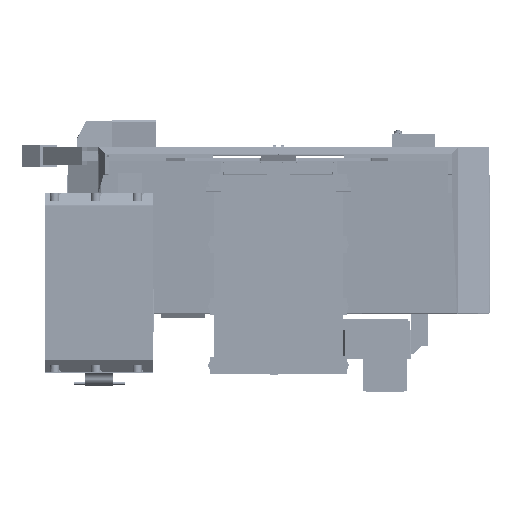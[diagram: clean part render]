
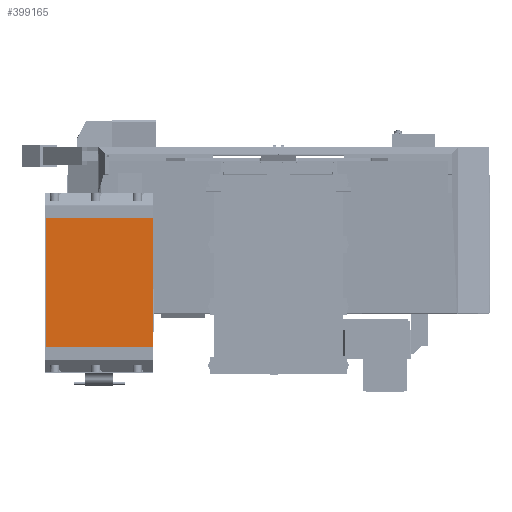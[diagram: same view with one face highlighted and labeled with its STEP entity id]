
A CAD part, front view. The second image highlights one B-rep face of the part: STEP entity #399165.
In plain terms, the highlighted planar face has unit normal (0, -1, 0).
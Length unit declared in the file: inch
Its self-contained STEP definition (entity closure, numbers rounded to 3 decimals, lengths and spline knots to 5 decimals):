
#8357 = LINE ( 'NONE', #748193, #463285 ) ;
#24992 = ORIENTED_EDGE ( 'NONE', *, *, #801441, .F. ) ;
#73401 = CARTESIAN_POINT ( 'NONE',  ( -68.105, -19.4571, -22.54 ) ) ;
#125063 = VERTEX_POINT ( 'NONE', #364917 ) ;
#125296 = DIRECTION ( 'NONE',  ( 0., 0., 1. ) ) ;
#139522 = DIRECTION ( 'NONE',  ( 0., 1., 0. ) ) ;
#153405 = VERTEX_POINT ( 'NONE', #228470 ) ;
#158712 = EDGE_CURVE ( 'NONE', #153405, #774953, #455027, .T. ) ;
#185944 = VECTOR ( 'NONE', #314923, 39.37008 ) ;
#190986 = DIRECTION ( 'NONE',  ( 0., 0., -1. ) ) ;
#200525 = LINE ( 'NONE', #558587, #631144 ) ;
#208986 = DIRECTION ( 'NONE',  ( 1., 0., 0. ) ) ;
#228470 = CARTESIAN_POINT ( 'NONE',  ( -68.105, -19.4571, -22.54 ) ) ;
#234663 = ORIENTED_EDGE ( 'NONE', *, *, #566307, .T. ) ;
#286087 = LINE ( 'NONE', #367972, #845662 ) ;
#314923 = DIRECTION ( 'NONE',  ( 1., 0., 0. ) ) ;
#329931 = ORIENTED_EDGE ( 'NONE', *, *, #547963, .F. ) ;
#348823 = CARTESIAN_POINT ( 'NONE',  ( -21.605, -19.4571, -22.54 ) ) ;
#364917 = CARTESIAN_POINT ( 'NONE',  ( -21.605, -19.4571, 33.76 ) ) ;
#367972 = CARTESIAN_POINT ( 'NONE',  ( -68.21, -19.4571, 33.76 ) ) ;
#399165 = ADVANCED_FACE ( 'NONE', ( #788052 ), #429462, .F. ) ;
#429182 = ORIENTED_EDGE ( 'NONE', *, *, #158712, .T. ) ;
#429462 = PLANE ( 'NONE',  #672387 ) ;
#455027 = LINE ( 'NONE', #73401, #185944 ) ;
#457520 = DIRECTION ( 'NONE',  ( 0., 0., -1. ) ) ;
#463285 = VECTOR ( 'NONE', #457520, 39.37008 ) ;
#547963 = EDGE_CURVE ( 'NONE', #125063, #774953, #8357, .T. ) ;
#558587 = CARTESIAN_POINT ( 'NONE',  ( -68.105, -19.4571, 39.16 ) ) ;
#564953 = EDGE_LOOP ( 'NONE', ( #24992, #234663, #429182, #329931 ) ) ;
#565392 = CARTESIAN_POINT ( 'NONE',  ( -68.105, -19.4571, 39.16 ) ) ;
#566307 = EDGE_CURVE ( 'NONE', #945583, #153405, #200525, .T. ) ;
#631144 = VECTOR ( 'NONE', #190986, 39.37008 ) ;
#672387 = AXIS2_PLACEMENT_3D ( 'NONE', #565392, #139522, #125296 ) ;
#748193 = CARTESIAN_POINT ( 'NONE',  ( -21.605, -19.4571, 39.16 ) ) ;
#774953 = VERTEX_POINT ( 'NONE', #348823 ) ;
#788052 = FACE_OUTER_BOUND ( 'NONE', #564953, .T. ) ;
#801441 = EDGE_CURVE ( 'NONE', #945583, #125063, #286087, .T. ) ;
#845662 = VECTOR ( 'NONE', #208986, 39.37008 ) ;
#895552 = CARTESIAN_POINT ( 'NONE',  ( -68.105, -19.4571, 33.76 ) ) ;
#945583 = VERTEX_POINT ( 'NONE', #895552 ) ;
